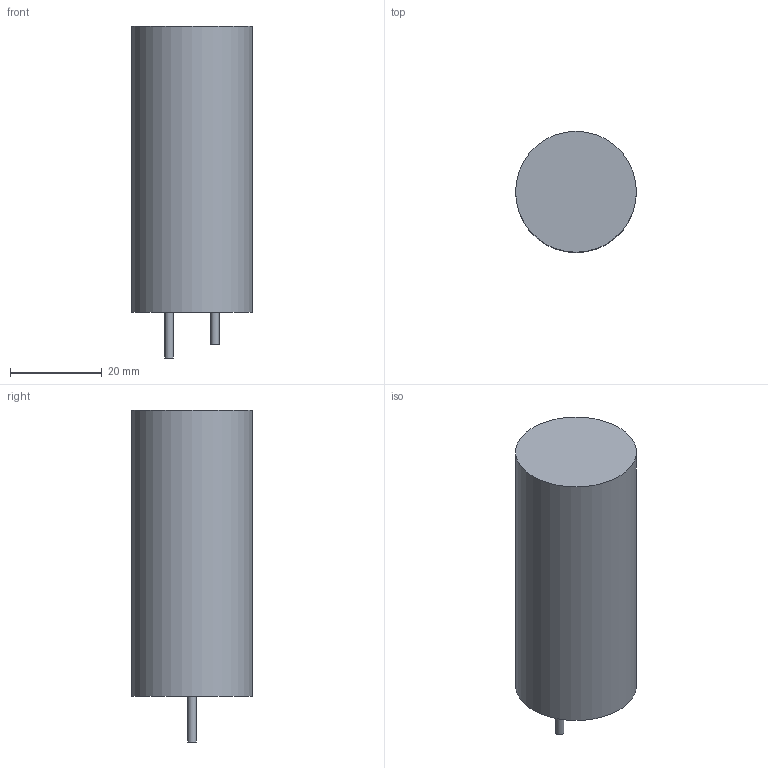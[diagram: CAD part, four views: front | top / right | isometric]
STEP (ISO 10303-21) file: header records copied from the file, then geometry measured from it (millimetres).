
FILE_DESCRIPTION(('FreeCAD Model'),'2;1');
FILE_NAME('/var/www/3D/0T/1509529.1.1.stp','2021-07-09T05:07:37',( 'Author'),(''),'Open CASCADE STEP processor 6.9','FreeCAD','Unknown' );
FILE_SCHEMA(('AUTOMOTIVE_DESIGN { 1 0 10303 214 1 1 1 1 }'));
Length unit declared in the file: millimetre
Products named in the file (4): ASSEMBLY; SimpleBody; Pin1; Pin2
Assembly tree (3 placements, depth 2):
  ASSEMBLY
    SimpleBody
    Pin1
    Pin2
Bounding box: 26.4 x 26.4 x 72.5 mm (x, y, z)
Volume: 34255.2 mm3; surface area: 6384.7 mm2
Topology: 3 solids, 3 shells, 9 faces, 9 edges, 6 vertices
Faces by surface type: plane 6, cylinder 3
Full cylindrical faces by diameter (mm): 1.8 x2, 26.4 x1
Entity records: 378 total; most frequent: DIRECTION 59, CARTESIAN_POINT 46, AXIS2_PLACEMENT_3D 19, ORIENTED_EDGE 18, PCURVE 18, DEFINITIONAL_REPRESENTATION 18, LINE 15, VECTOR 15
